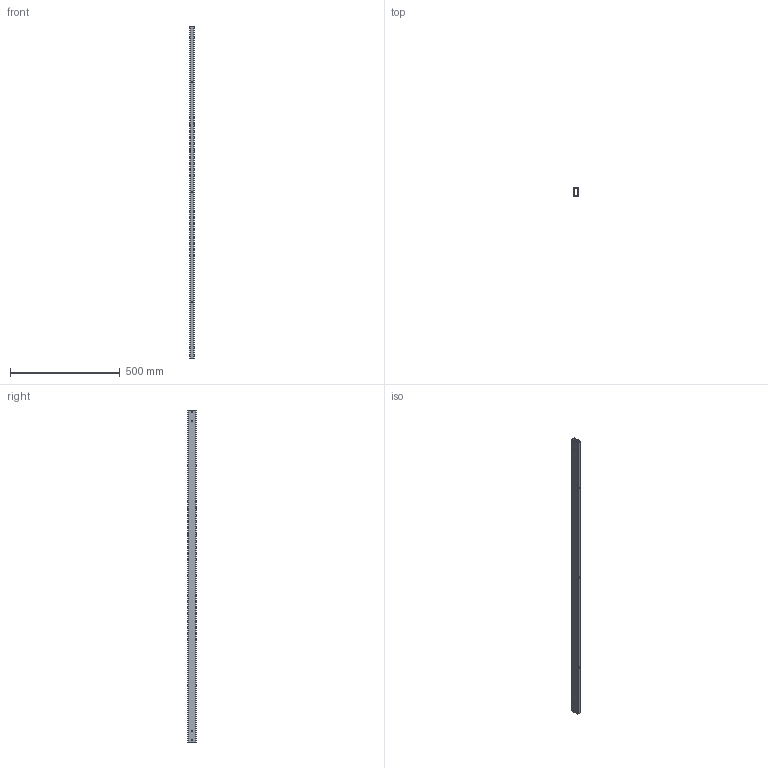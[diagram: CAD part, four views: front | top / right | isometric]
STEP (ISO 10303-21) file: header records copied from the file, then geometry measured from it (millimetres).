
FILE_DESCRIPTION (( 'STEP AP203' ), '1' );
FILE_NAME ('STRONG spojovací tyè EB16 40x20-1600_400053 a 400054 a 400055_3D.STEP', '2021-09-09T09:27:59', ( '' ), ( '' ), 'SwSTEP 2.0', 'SolidWorks 2019', '' );
FILE_SCHEMA (( 'CONFIG_CONTROL_DESIGN' ));
Length unit declared in the file: millimetre
Products named in the file (1): STRONG spojovací tyè EB16 40x20-1600_400053 a 400054 a 400055_3D
Bounding box: 20 x 40 x 1510 mm (x, y, z)
Volume: 248652.5 mm3; surface area: 332328.9 mm2
Topology: 1 solids, 1 shells, 46 faces, 132 edges, 88 vertices
Faces by surface type: cylinder 36, plane 10
Entity records: 1685 total; most frequent: DIRECTION 298, CARTESIAN_POINT 267, ORIENTED_EDGE 264, EDGE_CURVE 132, AXIS2_PLACEMENT_3D 119, VERTEX_POINT 88, EDGE_LOOP 76, CIRCLE 72
